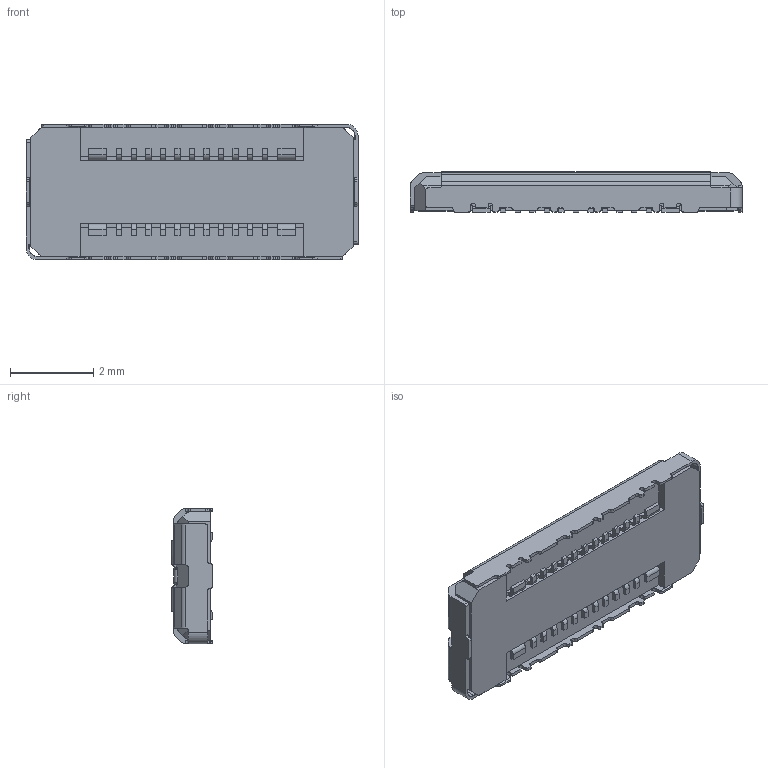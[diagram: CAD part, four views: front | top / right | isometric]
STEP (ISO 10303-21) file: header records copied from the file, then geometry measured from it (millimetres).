
FILE_DESCRIPTION (( 'STEP AP203' ), '1' );
FILE_NAME ('21151-022E-01C RECEPTACLE ASSEMBLY STEP R0 LENOVO .STEP', '2026-03-04T06:14:00', ( '' ), ( '' ), 'SwSTEP 2.0', 'SolidWorks 2023', '' );
FILE_SCHEMA (( 'CONFIG_CONTROL_DESIGN' ));
Length unit declared in the file: millimetre
Products named in the file (1): 21151-022E-01C RECEPTACLE ASSEMBLY STEP R0 LENOVO 
Bounding box: 7.98 x 0.97 x 3.26 mm (x, y, z)
Volume: 17.7 mm3; surface area: 96.5 mm2
Topology: 1 solids, 1 shells, 612 faces, 1791 edges, 1178 vertices
Faces by surface type: plane 400, cylinder 202, sphere 4, bspline 4, cone 2
Entity records: 20356 total; most frequent: CARTESIAN_POINT 3834, ORIENTED_EDGE 3582, DIRECTION 3341, EDGE_CURVE 1791, LINE 1363, VECTOR 1363, VERTEX_POINT 1178, AXIS2_PLACEMENT_3D 989
